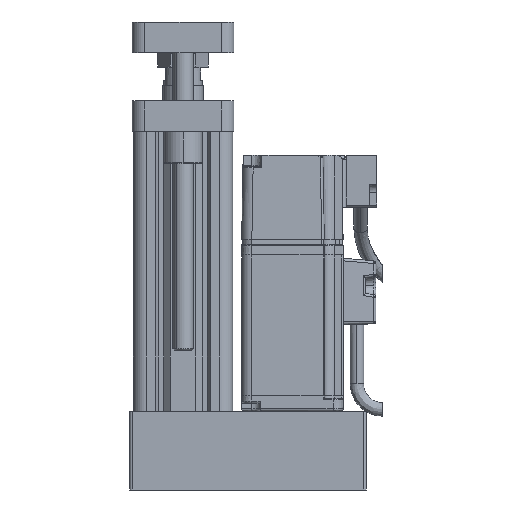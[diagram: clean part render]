
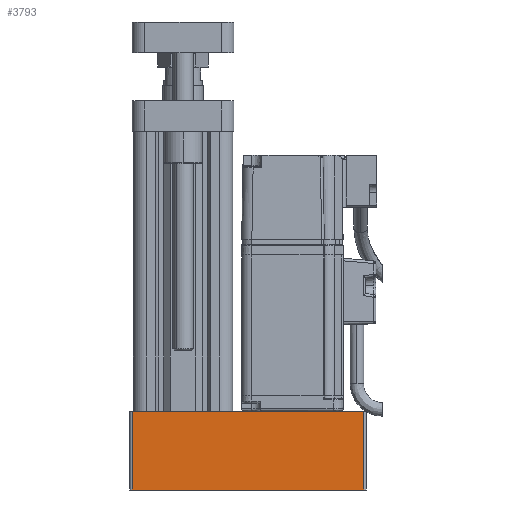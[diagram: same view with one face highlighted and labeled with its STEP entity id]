
A CAD part, left-side view. The second image highlights one B-rep face of the part: STEP entity #3793.
In plain terms, the highlighted planar face has unit normal (-1, 0, 0) as drawn and (0, 1, 0) by its records, which use the part's own axes.
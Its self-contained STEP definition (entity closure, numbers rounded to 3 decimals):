
#157 = EDGE_CURVE ( 'NONE', #10833, #14191, #9401, .T. ) ;
#2863 = EDGE_CURVE ( 'NONE', #26837, #22358, #19192, .T. ) ;
#3793 = ADVANCED_FACE ( 'NONE', ( #20891 ), #18256, .F. ) ;
#4376 = CARTESIAN_POINT ( 'NONE',  ( -46.5, 24., 0. ) ) ;
#5554 = DIRECTION ( 'NONE',  ( 0., 0., 1. ) ) ;
#6115 = CARTESIAN_POINT ( 'NONE',  ( -45.5, 24., 31. ) ) ;
#7406 = ORIENTED_EDGE ( 'NONE', *, *, #12472, .T. ) ;
#8216 = VECTOR ( 'NONE', #25469, 1000. ) ;
#8222 = CARTESIAN_POINT ( 'NONE',  ( -45.5, 24., 0. ) ) ;
#8244 = AXIS2_PLACEMENT_3D ( 'NONE', #22925, #16044, #24871 ) ;
#8787 = EDGE_LOOP ( 'NONE', ( #21549, #20126, #24116, #7406 ) ) ;
#9401 = LINE ( 'NONE', #19705, #19828 ) ;
#10833 = VERTEX_POINT ( 'NONE', #15431 ) ;
#12450 = CARTESIAN_POINT ( 'NONE',  ( 45.5, 24., 31. ) ) ;
#12472 = EDGE_CURVE ( 'NONE', #22358, #14191, #23982, .T. ) ;
#14191 = VERTEX_POINT ( 'NONE', #6115 ) ;
#14753 = CARTESIAN_POINT ( 'NONE',  ( -45.5, 24., 31. ) ) ;
#15431 = CARTESIAN_POINT ( 'NONE',  ( 45.5, 24., 31. ) ) ;
#16044 = DIRECTION ( 'NONE',  ( 0., -1., 0. ) ) ;
#17763 = DIRECTION ( 'NONE',  ( -1., 0., 0. ) ) ;
#18075 = VECTOR ( 'NONE', #5554, 1000. ) ;
#18256 = PLANE ( 'NONE',  #8244 ) ;
#19192 = LINE ( 'NONE', #4376, #23683 ) ;
#19705 = CARTESIAN_POINT ( 'NONE',  ( -46.5, 24., 31. ) ) ;
#19828 = VECTOR ( 'NONE', #24354, 1000. ) ;
#20126 = ORIENTED_EDGE ( 'NONE', *, *, #21430, .T. ) ;
#20891 = FACE_OUTER_BOUND ( 'NONE', #8787, .T. ) ;
#21430 = EDGE_CURVE ( 'NONE', #10833, #26837, #22164, .T. ) ;
#21549 = ORIENTED_EDGE ( 'NONE', *, *, #157, .F. ) ;
#22164 = LINE ( 'NONE', #12450, #8216 ) ;
#22358 = VERTEX_POINT ( 'NONE', #8222 ) ;
#22925 = CARTESIAN_POINT ( 'NONE',  ( -46.5, 24., 31. ) ) ;
#23683 = VECTOR ( 'NONE', #17763, 1000. ) ;
#23982 = LINE ( 'NONE', #14753, #18075 ) ;
#24116 = ORIENTED_EDGE ( 'NONE', *, *, #2863, .T. ) ;
#24354 = DIRECTION ( 'NONE',  ( -1., 0., 0. ) ) ;
#24871 = DIRECTION ( 'NONE',  ( 0., 0., -1. ) ) ;
#25469 = DIRECTION ( 'NONE',  ( 0., 0., -1. ) ) ;
#26837 = VERTEX_POINT ( 'NONE', #28194 ) ;
#28194 = CARTESIAN_POINT ( 'NONE',  ( 45.5, 24., 0. ) ) ;
